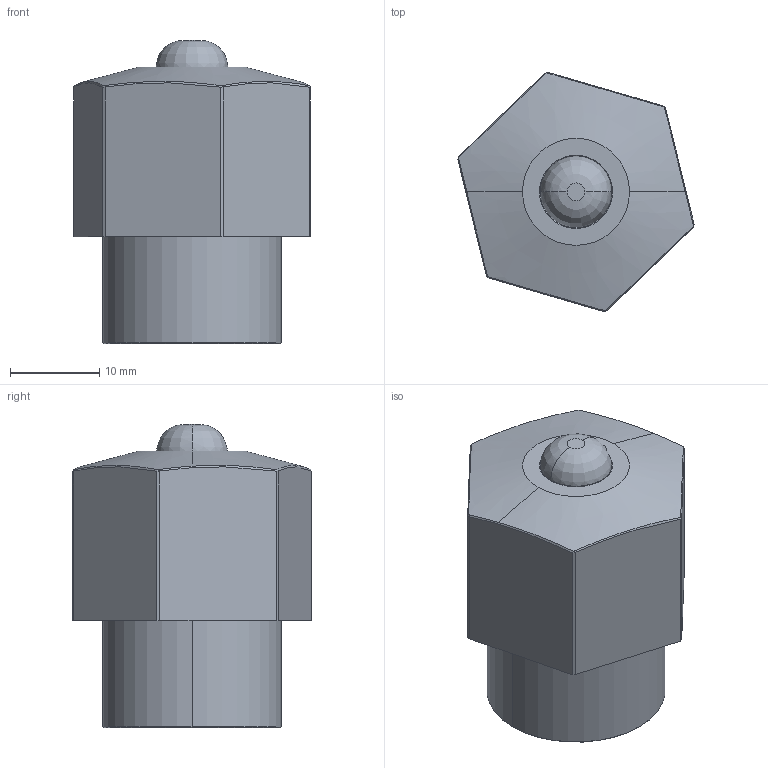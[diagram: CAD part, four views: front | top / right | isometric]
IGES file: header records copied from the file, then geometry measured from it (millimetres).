
Start section: SolidWorks IGES file using analytic representation for surfaces
Global section: file name: F:\TO4C-THREADED BODY-PUSHER\TO4C-M201.IGS; native system: SolidWorks 2019; preprocessor: SolidWorks 2019; author: ADMIN; date: 200710.115905; units: millimetre
Bounding box: 26.48 x 26.86 x 34 mm (x, y, z)
Volume: 12930.6 mm3; surface area: 4837.4 mm2
Topology: 2 solids, 2 shells, 52 faces, 106 edges, 62 vertices
Faces by surface type: plane 26, revolution 20, bspline 6
